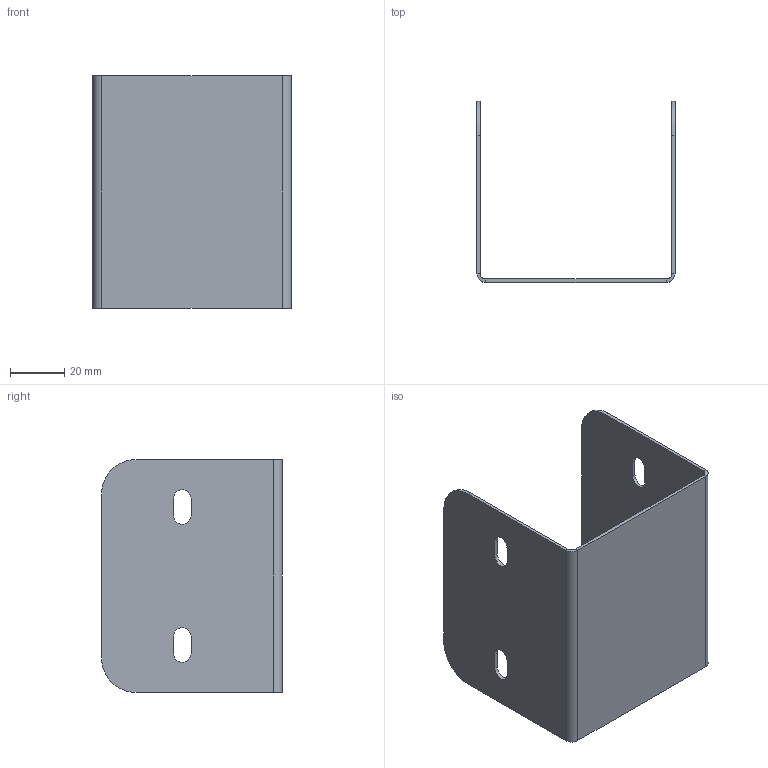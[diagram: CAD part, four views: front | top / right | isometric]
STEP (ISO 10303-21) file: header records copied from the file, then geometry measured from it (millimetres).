
FILE_DESCRIPTION (( 'STEP AP214' ), '1' );
FILE_NAME ('ct33ucss.STEP', '2007-05-29T15:57:25', ( '' ), ( '' ), 'SwSTEP 2.0', 'SolidWorks 2007', '' );
FILE_SCHEMA (( 'AUTOMOTIVE_DESIGN' ));
Length unit declared in the file: inch
Products named in the file (1): ct33ucss
Bounding box: 72.89 x 66.58 x 85.72 mm (x, y, z)
Volume: 20444.1 mm3; surface area: 34506.5 mm2
Topology: 1 solids, 1 shells, 42 faces, 104 edges, 64 vertices
Faces by surface type: plane 26, cylinder 16
Entity records: 1275 total; most frequent: DIRECTION 222, CARTESIAN_POINT 211, ORIENTED_EDGE 208, EDGE_CURVE 104, AXIS2_PLACEMENT_3D 75, VECTOR 72, LINE 72, VERTEX_POINT 64
